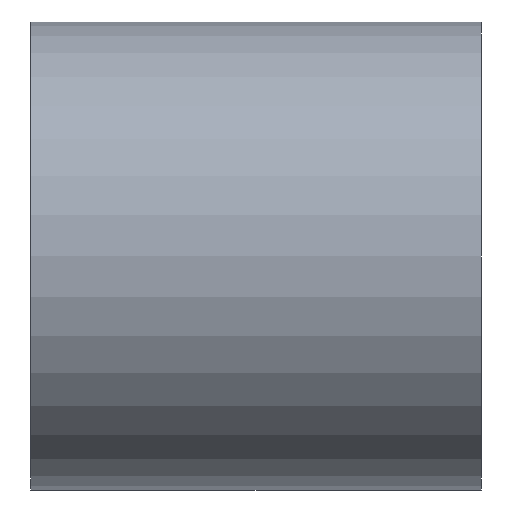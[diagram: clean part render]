
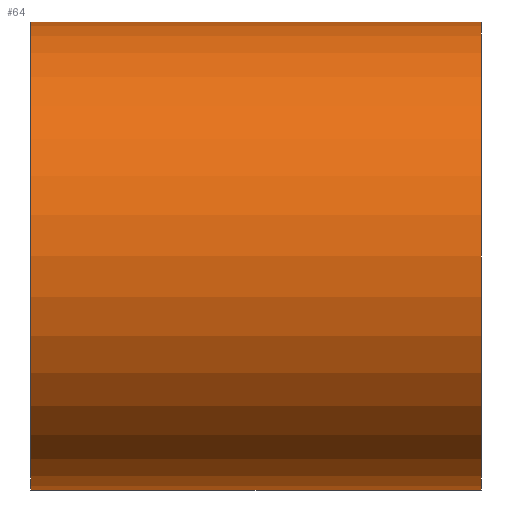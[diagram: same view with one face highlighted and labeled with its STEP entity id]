
A CAD part, front view. The second image highlights one B-rep face of the part: STEP entity #64.
In plain terms, the highlighted cylindrical face has radius 30.15 mm (diameter 60.3 mm), a full revolution.
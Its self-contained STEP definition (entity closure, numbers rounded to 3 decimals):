
#21=FACE_OUTER_BOUND('',#27,.T.);
#27=EDGE_LOOP('',(#54,#55,#56,#57));
#31=LINE('',#134,#33);
#33=VECTOR('',#116,30.15);
#36=CIRCLE('',#94,30.15);
#37=CIRCLE('',#96,30.15);
#40=VERTEX_POINT('',#129);
#41=VERTEX_POINT('',#132);
#45=EDGE_CURVE('',#40,#40,#36,.T.);
#46=EDGE_CURVE('',#41,#41,#37,.T.);
#47=EDGE_CURVE('',#41,#40,#31,.T.);
#54=ORIENTED_EDGE('',*,*,#46,.F.);
#55=ORIENTED_EDGE('',*,*,#47,.T.);
#56=ORIENTED_EDGE('',*,*,#45,.T.);
#57=ORIENTED_EDGE('',*,*,#47,.F.);
#61=CYLINDRICAL_SURFACE('',#95,30.15);
#64=ADVANCED_FACE('',(#21),#61,.T.);
#94=AXIS2_PLACEMENT_3D('',#130,#110,#111);
#95=AXIS2_PLACEMENT_3D('',#131,#112,#113);
#96=AXIS2_PLACEMENT_3D('',#133,#114,#115);
#110=DIRECTION('center_axis',(-1.,0.,0.));
#111=DIRECTION('ref_axis',(0.,0.,1.));
#112=DIRECTION('center_axis',(-1.,0.,0.));
#113=DIRECTION('ref_axis',(0.,1.,0.));
#114=DIRECTION('center_axis',(-1.,0.,0.));
#115=DIRECTION('ref_axis',(0.,0.,1.));
#116=DIRECTION('',(1.,0.,0.));
#129=CARTESIAN_POINT('',(58.,-30.15,0.));
#130=CARTESIAN_POINT('Origin',(58.,0.,0.));
#131=CARTESIAN_POINT('Origin',(29.,0.,0.));
#132=CARTESIAN_POINT('',(0.,-30.15,0.));
#133=CARTESIAN_POINT('Origin',(0.,0.,
0.));
#134=CARTESIAN_POINT('',(29.,-30.15,0.));
